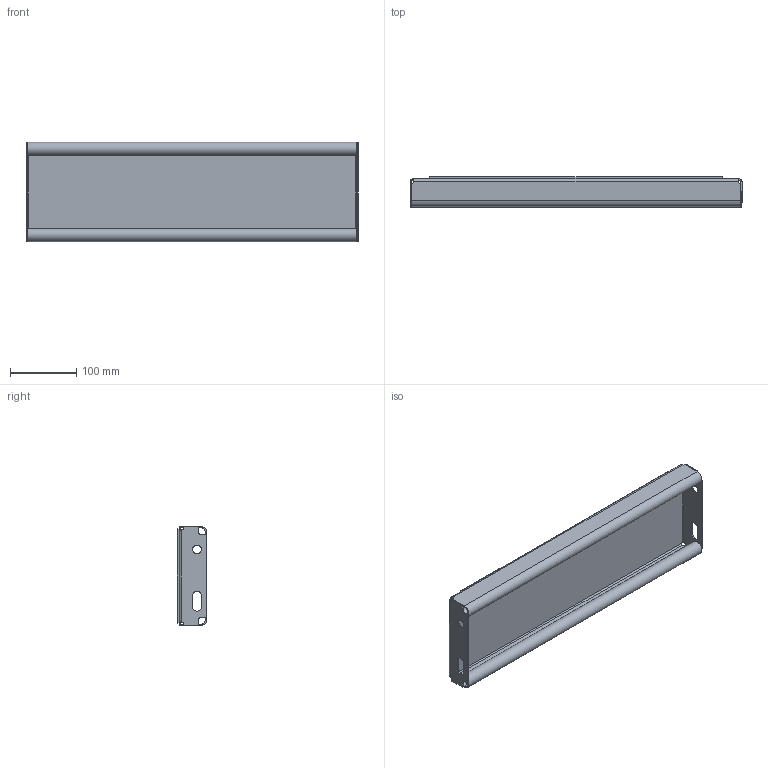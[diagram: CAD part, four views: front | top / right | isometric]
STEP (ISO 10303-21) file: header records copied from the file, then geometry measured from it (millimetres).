
FILE_DESCRIPTION (( 'STEP AP214' ), '1' );
FILE_NAME ('OPTIMO-Tread-Achil-O2-500x150x45x2-st240-F100010100-plain.STEP', '2021-03-15T09:23:18', ( '' ), ( '' ), 'SwSTEP 2.0', 'SolidWorks 2021', '' );
FILE_SCHEMA (( 'AUTOMOTIVE_DESIGN' ));
Length unit declared in the file: millimetre
Products named in the file (1): OPTIMO-Tread-Achil-O2-500x150x45x2-st240-F100010100-plain
Bounding box: 500 x 45 x 150 mm (x, y, z)
Volume: 510551.5 mm3; surface area: 330889.5 mm2
Topology: 1 solids, 1 shells, 247 faces, 637 edges, 410 vertices
Faces by surface type: plane 172, bspline 39, cylinder 36
Entity records: 9731 total; most frequent: CARTESIAN_POINT 3926, ORIENTED_EDGE 1274, DIRECTION 1017, EDGE_CURVE 637, LINE 487, VECTOR 487, VERTEX_POINT 410, EDGE_LOOP 273
